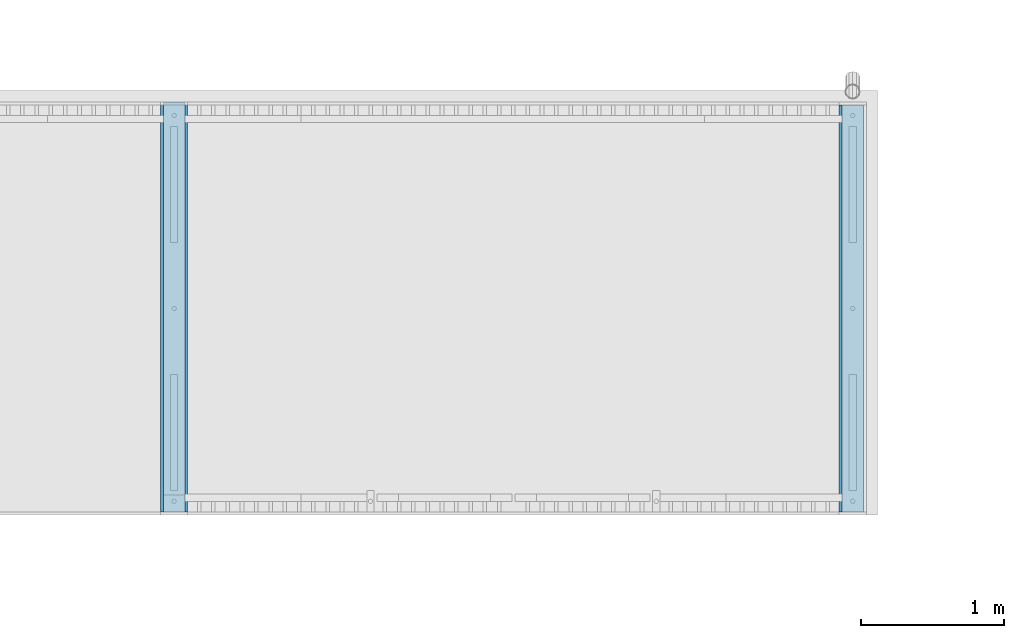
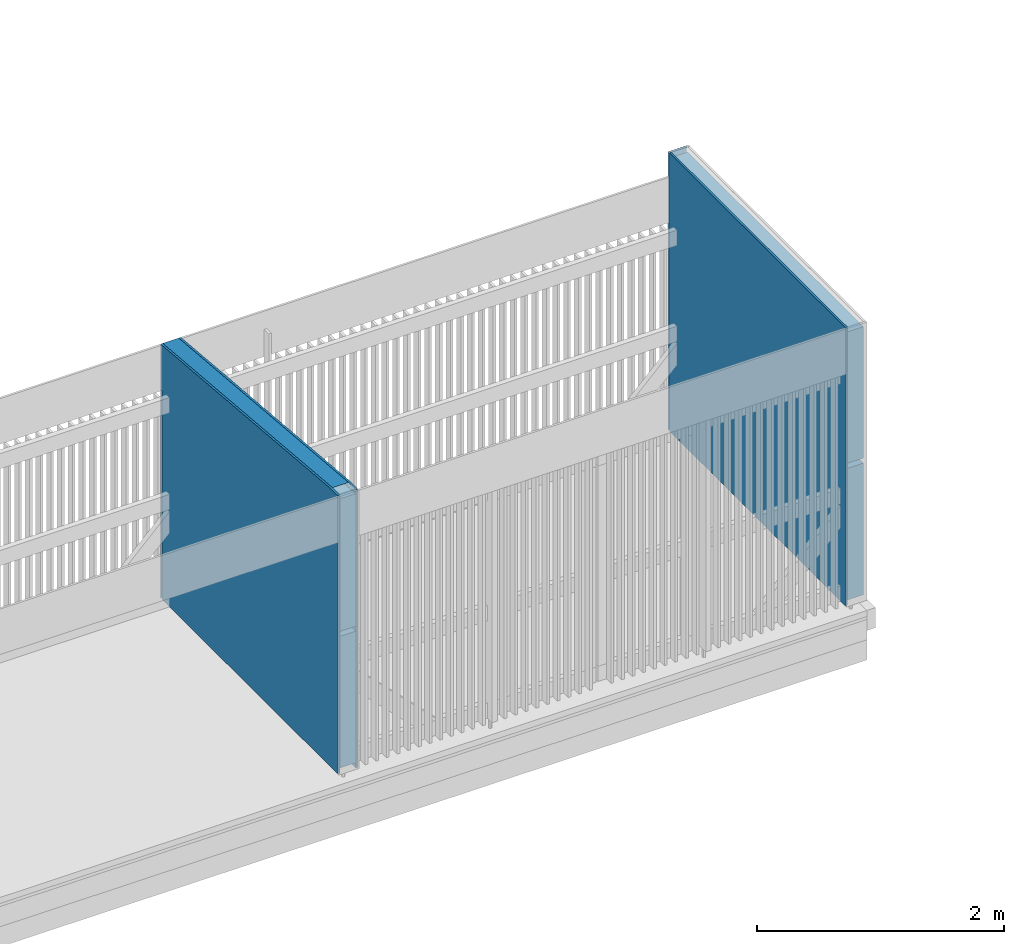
# One storey, part 125 of 418: 5 building element parts, 2 elements without a shape of their own.
"""IFC2X3 building model written with IfcOpenShell, lengths in millimetres."""

from ifc_helpers import new_model, entity, si_unit, converted_unit, derived_unit, money_unit, direction, frame, origin_with_axes, place, context, subcontext, project, spatial, polyline, outline, extrude, boolean, faceted_brep, material, type_object, element, aggregate, save


model = new_model("IFC2X3")

# Units and contexts
model_context = context("Model", 3, precision=0.01, world=origin_with_axes(), true_north=direction((0.0, 1.0)))
body_context = subcontext(model_context, "Body", "Model", "MODEL_VIEW")
ifc_project = project(units=[si_unit("LENGTHUNIT", "METRE", prefix="MILLI"), si_unit("AREAUNIT", "SQUARE_METRE"), si_unit("VOLUMEUNIT", "CUBIC_METRE"), converted_unit("PLANEANGLEUNIT", "DEGREE", entity("IfcPlaneAngleMeasure", 0.0174532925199), si_unit("PLANEANGLEUNIT", "RADIAN"), dimensions=[0, 0, 0, 0, 0, 0, 0]), si_unit("SOLIDANGLEUNIT", "STERADIAN"), money_unit("EUR"), converted_unit("TIMEUNIT", "Year", entity("IfcTimeMeasure", 31556926.0), si_unit("TIMEUNIT", "SECOND"), dimensions=[0, 0, 1, 0, 0, 0, 0]), si_unit("MASSUNIT", "GRAM", prefix="KILO"), si_unit("THERMODYNAMICTEMPERATUREUNIT", "DEGREE_CELSIUS"), si_unit("LUMINOUSINTENSITYUNIT", "LUMEN"), si_unit("ENERGYUNIT", "JOULE", prefix="MEGA"), derived_unit("THERMALCONDUCTANCEUNIT", [(si_unit("POWERUNIT", "WATT"), 1), (si_unit("LENGTHUNIT", "METRE"), -1), (si_unit("THERMODYNAMICTEMPERATUREUNIT", "KELVIN"), -1)]), derived_unit("SPECIFICHEATCAPACITYUNIT", [(si_unit("ENERGYUNIT", "JOULE"), 1), (si_unit("MASSUNIT", "GRAM", prefix="KILO"), -1), (si_unit("THERMODYNAMICTEMPERATUREUNIT", "KELVIN"), -1)]), derived_unit("MASSDENSITYUNIT", [(si_unit("MASSUNIT", "GRAM", prefix="KILO"), 1), (si_unit("VOLUMEUNIT", "CUBIC_METRE"), -1)])], contexts=[model_context])

# Site, building, storey
site_placement = place(None, origin_with_axes())
site = spatial("IfcSite", under=ifc_project, at=site_placement, Name="Paldiski mnt 245/1, Tallinn, Harjumaa", CompositionType="COMPLEX")
building_placement = place(site_placement, origin_with_axes())
building = spatial("IfcBuilding", under=site, at=building_placement, Name="RKAS Hoone üldnimetus (kasutust iseloomustav) -> IFC Project Manager -> SOLIBRI", CompositionType="ELEMENT")
storey_placement = place(building_placement, origin_with_axes())
storey = spatial("IfcBuildingStorey", under=building, at=storey_placement, Name="Esimene korrus", CompositionType="ELEMENT", Elevation=0.0)

# Proxy, building element parts
building_element_proxy_type = type_object("IfcBuildingElementProxyType", Name="Pürgimaja_varjualuse_välissein 190", PredefinedType="NOTDEFINED")
proxy_1_placement = place(storey_placement, frame((-11974.2718012, 11149.7949563, -960.0), z_axis=(0.0, 0.0, 1.0), x_axis=(0.0, 1.0, 0.0)))
proxy_1 = element("IfcBuildingElementProxy", 1, at=proxy_1_placement, inside=storey, type_object=building_element_proxy_type, Name="Välissein_1")
ifc_material_1 = material(Name="Voodrilaud UYS 21x120mm")
building_element_part_1_placement = place(proxy_1_placement, origin_with_axes())
solid_1 = boolean("DIFFERENCE", boolean("DIFFERENCE", boolean("DIFFERENCE", boolean("DIFFERENCE", boolean("DIFFERENCE", boolean("DIFFERENCE", boolean("DIFFERENCE", boolean("DIFFERENCE", extrude(outline(polyline([(0.0, -95.0), (2890.00000143, -95.0), (2890.00000143, -75.0), (0.0, -75.0), (0.0, -95.0)])), origin_with_axes(), (0.0, 0.0, 1.0), 2752.59465133), faceted_brep([(20.0000171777, -95.0, 0.0), (20.0000171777, -95.0, 2752.59465133), (0.0, -95.0, 2752.59465133), (0.0, -95.0, 0.0), (20.0000171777, -75.0, 2752.59465133), (20.0000171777, -75.0, 0.0), (0.0, -75.0, 2752.59465133), (0.0, -75.0, 0.0)], [[[0, 1, 2, 3]], [[4, 1, 0, 5]], [[1, 4, 6, 2]], [[6, 7, 3, 2]], [[5, 0, 3, 7]], [[4, 5, 7, 6]]])), faceted_brep([(2869.00000143, -95.0, 2063.68114765), (2869.00000143, -95.0, 0.0), (2889.00000143, -95.0, 0.0), (2889.00000143, -95.0, 2063.68114765), (2869.00000143, -74.9999999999, 2063.68114765), (2869.00000143, -74.9999999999, 0.0), (2889.00000143, -74.9999999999, 0.0), (2889.00000143, -74.9999999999, 2063.68114765)], [[[0, 1, 2, 3]], [[1, 0, 4, 5]], [[6, 2, 1, 5]], [[3, 2, 6, 7]], [[0, 3, 7, 4]], [[7, 6, 5, 4]]])), faceted_brep([(145.005673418, -95.0, 2752.59465133), (2890.00000143, -94.9999999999, 2512.43876619), (2890.00000143, -95.0, 2752.59465133), (2890.00000143, -74.9999999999, 2512.43876619), (145.005673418, -75.0, 2752.59465133), (2890.00000143, -75.0, 2752.59465133)], [[[0, 1, 2]], [[3, 1, 0, 4]], [[1, 3, 5, 2]], [[4, 0, 2, 5]], [[3, 4, 5]]])), faceted_brep([(2869.00000143, 75.0000000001, 2063.68114765), (2889.00000143, 75.0000000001, 2063.68114765), (2889.00000143, 75.0000000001, 0.0), (0.0, 75.0, 0.0), (0.0, 75.0, 2752.59465133), (138.206158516, 75.0000473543, 2752.59465133), (2869.00000143, 75.0000473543, 2513.68114765), (2869.00000143, 75.0000473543, 2463.49015578), (20.0000171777, 75.0000473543, 2712.74535678), (20.0000171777, 75.0000473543, 1402.59465133), (2869.00000143, 75.0000473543, 1402.59465133), (20.0000171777, 75.0000473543, 50.0), (2869.00000143, 75.0000473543, 50.0), (2869.00000143, 75.0000473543, 1352.59465133), (20.0000171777, 75.0000473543, 1352.59465133), (2869.00000143, -74.9999999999, 2063.68114765), (2889.00000143, -74.9999999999, 2063.68114765), (2889.00000143, -74.9999999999, 0.0), (0.0, -75.0, 0.0), (0.0, -75.0, 2752.59465133), (138.206158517, -74.9999526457, 2752.59465133), (2869.00000143, -74.9999526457, 2513.68114765), (2869.00000143, -74.9999526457, 2463.49015578), (20.0000171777, -74.9999526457, 2712.74535678), (20.0000171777, -74.9999526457, 1402.59465133), (2869.00000143, -74.9999526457, 1402.59465133), (20.0000171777, -74.9999526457, 50.0), (2869.00000143, -74.9999526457, 50.0), (2869.00000143, -74.9999526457, 1352.59465133), (20.0000171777, -74.9999526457, 1352.59465133)], [[[0, 1, 2, 3, 4, 5, 6, 7, 8, 9, 10], [11, 12, 13, 14]], [[0, 15, 16, 1]], [[1, 16, 17, 2]], [[3, 2, 17, 18]], [[19, 4, 3, 18]], [[19, 20, 5, 4]], [[5, 20, 21, 6]], [[6, 21, 22, 7]], [[7, 22, 23, 8]], [[8, 23, 24, 9]], [[9, 24, 25, 10]], [[10, 25, 15, 0]], [[26, 27, 12, 11]], [[27, 28, 13, 12]], [[28, 29, 14, 13]], [[29, 26, 11, 14]], [[22, 21, 20, 19, 18, 17, 16, 15, 25, 24, 23], [26, 29, 28, 27]]])), faceted_brep([(145.005673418, -74.9999527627, 2752.59465133), (2890.00000143, -74.9999999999, 2512.43876619), (2890.00000143, -75.0, 2752.59465133), (2890.00000143, 75.0000000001, 2512.43876619), (145.005673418, 75.0000472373, 2752.59465133), (2890.00000143, 75.0, 2752.59465133)], [[[0, 1, 2]], [[3, 1, 0, 4]], [[1, 3, 5, 2]], [[4, 0, 2, 5]], [[3, 4, 5]]])), faceted_brep([(170.000001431, -24.9999484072, 750.934656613), (170.000001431, 25.0000515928, 750.934656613), (770.934658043, 25.0000515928, 150.0), (770.934658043, -24.9999484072, 150.0), (170.000001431, -24.9999484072, 963.066690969), (170.000001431, 25.0000515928, 963.066690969), (983.066692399, 25.0000515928, 150.0), (983.066692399, -24.9999484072, 150.0)], [[[0, 1, 2, 3]], [[0, 4, 5, 1]], [[1, 5, 6, 2]], [[3, 2, 6, 7]], [[4, 0, 3, 7]], [[5, 4, 7, 6]]])), faceted_brep([(2720.00000143, -24.9999484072, 963.066690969), (2720.00000143, 25.0000515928, 963.066690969), (1906.93331046, 25.0000515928, 150.0), (1906.93331046, -24.9999484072, 150.0), (2720.00000143, -24.9999484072, 750.934656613), (2720.00000143, 25.0000515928, 750.934656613), (2119.06534482, 25.0000515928, 150.0), (2119.06534482, -24.9999484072, 150.0)], [[[0, 1, 2, 3]], [[0, 4, 5, 1]], [[1, 5, 6, 2]], [[3, 2, 6, 7]], [[4, 0, 3, 7]], [[5, 4, 7, 6]]])), faceted_brep([(20.0000171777, 75.0, 0.0), (20.0000171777, 75.0, 2752.59465133), (0.0, 75.0, 2752.59465133), (0.0, 75.0, 0.0), (20.0000171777, 95.0, 2752.59465133), (20.0000171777, 95.0, 0.0), (0.0, 95.0, 2752.59465133), (0.0, 95.0, 0.0)], [[[0, 1, 2, 3]], [[4, 1, 0, 5]], [[1, 4, 6, 2]], [[6, 7, 3, 2]], [[5, 0, 3, 7]], [[4, 5, 7, 6]]]))
building_element_part_1 = element("IfcBuildingElementPart", 2, at=building_element_part_1_placement, material=ifc_material_1, Name="Voodrilaud UYS 21x120mm", context=body_context, shape_type="CSG", body=[
    boolean("DIFFERENCE", boolean("DIFFERENCE", solid_1, faceted_brep([(2869.00000143, 75.0000000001, 2063.68114765), (2869.00000143, 75.0000000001, 0.0), (2889.00000143, 75.0000000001, 0.0), (2889.00000143, 75.0000000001, 2063.68114765), (2869.00000143, 94.9999915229, 2063.68114765), (2869.00000143, 94.9999915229, 0.0), (2889.00000143, 94.9999915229, 0.0), (2889.00000143, 94.9999915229, 2063.68114765)], [[[0, 1, 2, 3]], [[1, 0, 4, 5]], [[6, 2, 1, 5]], [[3, 2, 6, 7]], [[0, 3, 7, 4]], [[7, 6, 5, 4]]])), faceted_brep([(145.005673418, 75.0, 2752.59465133), (2890.00000143, 75.0000000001, 2512.43876619), (2890.00000143, 75.0, 2752.59465133), (2890.00000143, 95.0000000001, 2512.43876619), (145.005673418, 95.0, 2752.59465133), (2890.00000143, 95.0, 2752.59465133)], [[[0, 1, 2]], [[3, 1, 0, 4]], [[1, 3, 5, 2]], [[4, 0, 2, 5]], [[3, 4, 5]]])),
])
ifc_material_2 = material(Name="Puitkarkass 150x150 ja 50x150 mm/õhuvahe")
building_element_part_2_placement = place(proxy_1_placement, origin_with_axes())
solid_2 = boolean("DIFFERENCE", boolean("DIFFERENCE", boolean("DIFFERENCE", boolean("DIFFERENCE", boolean("DIFFERENCE", boolean("DIFFERENCE", boolean("DIFFERENCE", boolean("DIFFERENCE", extrude(outline(polyline([(0.0, -75.0), (2890.00000143, -75.0), (2890.00000143, 75.0), (0.0, 75.0), (0.0, -75.0)])), origin_with_axes(), (0.0, 0.0, 1.0), 2752.59465133), faceted_brep([(20.0000171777, -95.0, 0.0), (20.0000171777, -95.0, 2752.59465133), (0.0, -95.0, 2752.59465133), (0.0, -95.0, 0.0), (20.0000171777, -75.0, 2752.59465133), (20.0000171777, -75.0, 0.0), (0.0, -75.0, 2752.59465133), (0.0, -75.0, 0.0)], [[[0, 1, 2, 3]], [[4, 1, 0, 5]], [[1, 4, 6, 2]], [[6, 7, 3, 2]], [[5, 0, 3, 7]], [[4, 5, 7, 6]]])), faceted_brep([(2869.00000143, -95.0, 2063.68114765), (2869.00000143, -95.0, 0.0), (2889.00000143, -95.0, 0.0), (2889.00000143, -95.0, 2063.68114765), (2869.00000143, -74.9999999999, 2063.68114765), (2869.00000143, -74.9999999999, 0.0), (2889.00000143, -74.9999999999, 0.0), (2889.00000143, -74.9999999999, 2063.68114765)], [[[0, 1, 2, 3]], [[1, 0, 4, 5]], [[6, 2, 1, 5]], [[3, 2, 6, 7]], [[0, 3, 7, 4]], [[7, 6, 5, 4]]])), faceted_brep([(145.005673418, -95.0, 2752.59465133), (2890.00000143, -94.9999999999, 2512.43876619), (2890.00000143, -95.0, 2752.59465133), (2890.00000143, -74.9999999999, 2512.43876619), (145.005673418, -75.0, 2752.59465133), (2890.00000143, -75.0, 2752.59465133)], [[[0, 1, 2]], [[3, 1, 0, 4]], [[1, 3, 5, 2]], [[4, 0, 2, 5]], [[3, 4, 5]]])), faceted_brep([(2869.00000143, 75.0000000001, 2063.68114765), (2889.00000143, 75.0000000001, 2063.68114765), (2889.00000143, 75.0000000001, 0.0), (0.0, 75.0, 0.0), (0.0, 75.0, 2752.59465133), (138.206158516, 75.0000473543, 2752.59465133), (2869.00000143, 75.0000473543, 2513.68114765), (2869.00000143, 75.0000473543, 2463.49015578), (20.0000171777, 75.0000473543, 2712.74535678), (20.0000171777, 75.0000473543, 1402.59465133), (2869.00000143, 75.0000473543, 1402.59465133), (20.0000171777, 75.0000473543, 50.0), (2869.00000143, 75.0000473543, 50.0), (2869.00000143, 75.0000473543, 1352.59465133), (20.0000171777, 75.0000473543, 1352.59465133), (2869.00000143, -74.9999999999, 2063.68114765), (2889.00000143, -74.9999999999, 2063.68114765), (2889.00000143, -74.9999999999, 0.0), (0.0, -75.0, 0.0), (0.0, -75.0, 2752.59465133), (138.206158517, -74.9999526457, 2752.59465133), (2869.00000143, -74.9999526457, 2513.68114765), (2869.00000143, -74.9999526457, 2463.49015578), (20.0000171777, -74.9999526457, 2712.74535678), (20.0000171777, -74.9999526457, 1402.59465133), (2869.00000143, -74.9999526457, 1402.59465133), (20.0000171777, -74.9999526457, 50.0), (2869.00000143, -74.9999526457, 50.0), (2869.00000143, -74.9999526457, 1352.59465133), (20.0000171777, -74.9999526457, 1352.59465133)], [[[0, 1, 2, 3, 4, 5, 6, 7, 8, 9, 10], [11, 12, 13, 14]], [[0, 15, 16, 1]], [[1, 16, 17, 2]], [[3, 2, 17, 18]], [[19, 4, 3, 18]], [[19, 20, 5, 4]], [[5, 20, 21, 6]], [[6, 21, 22, 7]], [[7, 22, 23, 8]], [[8, 23, 24, 9]], [[9, 24, 25, 10]], [[10, 25, 15, 0]], [[26, 27, 12, 11]], [[27, 28, 13, 12]], [[28, 29, 14, 13]], [[29, 26, 11, 14]], [[22, 21, 20, 19, 18, 17, 16, 15, 25, 24, 23], [26, 29, 28, 27]]])), faceted_brep([(145.005673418, -74.9999527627, 2752.59465133), (2890.00000143, -74.9999999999, 2512.43876619), (2890.00000143, -75.0, 2752.59465133), (2890.00000143, 75.0000000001, 2512.43876619), (145.005673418, 75.0000472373, 2752.59465133), (2890.00000143, 75.0, 2752.59465133)], [[[0, 1, 2]], [[3, 1, 0, 4]], [[1, 3, 5, 2]], [[4, 0, 2, 5]], [[3, 4, 5]]])), faceted_brep([(170.000001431, -24.9999484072, 750.934656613), (170.000001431, 25.0000515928, 750.934656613), (770.934658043, 25.0000515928, 150.0), (770.934658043, -24.9999484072, 150.0), (170.000001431, -24.9999484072, 963.066690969), (170.000001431, 25.0000515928, 963.066690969), (983.066692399, 25.0000515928, 150.0), (983.066692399, -24.9999484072, 150.0)], [[[0, 1, 2, 3]], [[0, 4, 5, 1]], [[1, 5, 6, 2]], [[3, 2, 6, 7]], [[4, 0, 3, 7]], [[5, 4, 7, 6]]])), faceted_brep([(2720.00000143, -24.9999484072, 963.066690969), (2720.00000143, 25.0000515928, 963.066690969), (1906.93331046, 25.0000515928, 150.0), (1906.93331046, -24.9999484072, 150.0), (2720.00000143, -24.9999484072, 750.934656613), (2720.00000143, 25.0000515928, 750.934656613), (2119.06534482, 25.0000515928, 150.0), (2119.06534482, -24.9999484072, 150.0)], [[[0, 1, 2, 3]], [[0, 4, 5, 1]], [[1, 5, 6, 2]], [[3, 2, 6, 7]], [[4, 0, 3, 7]], [[5, 4, 7, 6]]])), faceted_brep([(20.0000171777, 75.0, 0.0), (20.0000171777, 75.0, 2752.59465133), (0.0, 75.0, 2752.59465133), (0.0, 75.0, 0.0), (20.0000171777, 95.0, 2752.59465133), (20.0000171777, 95.0, 0.0), (0.0, 95.0, 2752.59465133), (0.0, 95.0, 0.0)], [[[0, 1, 2, 3]], [[4, 1, 0, 5]], [[1, 4, 6, 2]], [[6, 7, 3, 2]], [[5, 0, 3, 7]], [[4, 5, 7, 6]]]))
building_element_part_2 = element("IfcBuildingElementPart", 3, at=building_element_part_2_placement, material=ifc_material_2, Name="Puitkarkass 150x150 ja 50x150 mm/õhuvahe", context=body_context, shape_type="CSG", body=[
    boolean("DIFFERENCE", boolean("DIFFERENCE", solid_2, faceted_brep([(2869.00000143, 75.0000000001, 2063.68114765), (2869.00000143, 75.0000000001, 0.0), (2889.00000143, 75.0000000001, 0.0), (2889.00000143, 75.0000000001, 2063.68114765), (2869.00000143, 94.9999915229, 2063.68114765), (2869.00000143, 94.9999915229, 0.0), (2889.00000143, 94.9999915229, 0.0), (2889.00000143, 94.9999915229, 2063.68114765)], [[[0, 1, 2, 3]], [[1, 0, 4, 5]], [[6, 2, 1, 5]], [[3, 2, 6, 7]], [[0, 3, 7, 4]], [[7, 6, 5, 4]]])), faceted_brep([(145.005673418, 75.0, 2752.59465133), (2890.00000143, 75.0000000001, 2512.43876619), (2890.00000143, 75.0, 2752.59465133), (2890.00000143, 95.0000000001, 2512.43876619), (145.005673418, 95.0, 2752.59465133), (2890.00000143, 95.0, 2752.59465133)], [[[0, 1, 2]], [[3, 1, 0, 4]], [[1, 3, 5, 2]], [[4, 0, 2, 5]], [[3, 4, 5]]])),
])
building_element_part_3_placement = place(proxy_1_placement, origin_with_axes())
solid_3 = boolean("DIFFERENCE", boolean("DIFFERENCE", boolean("DIFFERENCE", boolean("DIFFERENCE", boolean("DIFFERENCE", boolean("DIFFERENCE", boolean("DIFFERENCE", boolean("DIFFERENCE", extrude(outline(polyline([(0.0, 75.0), (2890.00000143, 75.0), (2890.00000143, 95.0), (0.0, 95.0), (0.0, 75.0)])), origin_with_axes(), (0.0, 0.0, 1.0), 2752.59465133), faceted_brep([(20.0000171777, -95.0, 0.0), (20.0000171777, -95.0, 2752.59465133), (0.0, -95.0, 2752.59465133), (0.0, -95.0, 0.0), (20.0000171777, -75.0, 2752.59465133), (20.0000171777, -75.0, 0.0), (0.0, -75.0, 2752.59465133), (0.0, -75.0, 0.0)], [[[0, 1, 2, 3]], [[4, 1, 0, 5]], [[1, 4, 6, 2]], [[6, 7, 3, 2]], [[5, 0, 3, 7]], [[4, 5, 7, 6]]])), faceted_brep([(2869.00000143, -95.0, 2063.68114765), (2869.00000143, -95.0, 0.0), (2889.00000143, -95.0, 0.0), (2889.00000143, -95.0, 2063.68114765), (2869.00000143, -74.9999999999, 2063.68114765), (2869.00000143, -74.9999999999, 0.0), (2889.00000143, -74.9999999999, 0.0), (2889.00000143, -74.9999999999, 2063.68114765)], [[[0, 1, 2, 3]], [[1, 0, 4, 5]], [[6, 2, 1, 5]], [[3, 2, 6, 7]], [[0, 3, 7, 4]], [[7, 6, 5, 4]]])), faceted_brep([(145.005673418, -95.0, 2752.59465133), (2890.00000143, -94.9999999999, 2512.43876619), (2890.00000143, -95.0, 2752.59465133), (2890.00000143, -74.9999999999, 2512.43876619), (145.005673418, -75.0, 2752.59465133), (2890.00000143, -75.0, 2752.59465133)], [[[0, 1, 2]], [[3, 1, 0, 4]], [[1, 3, 5, 2]], [[4, 0, 2, 5]], [[3, 4, 5]]])), faceted_brep([(2869.00000143, 75.0000000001, 2063.68114765), (2889.00000143, 75.0000000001, 2063.68114765), (2889.00000143, 75.0000000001, 0.0), (0.0, 75.0, 0.0), (0.0, 75.0, 2752.59465133), (138.206158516, 75.0000473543, 2752.59465133), (2869.00000143, 75.0000473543, 2513.68114765), (2869.00000143, 75.0000473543, 2463.49015578), (20.0000171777, 75.0000473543, 2712.74535678), (20.0000171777, 75.0000473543, 1402.59465133), (2869.00000143, 75.0000473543, 1402.59465133), (20.0000171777, 75.0000473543, 50.0), (2869.00000143, 75.0000473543, 50.0), (2869.00000143, 75.0000473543, 1352.59465133), (20.0000171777, 75.0000473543, 1352.59465133), (2869.00000143, -74.9999999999, 2063.68114765), (2889.00000143, -74.9999999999, 2063.68114765), (2889.00000143, -74.9999999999, 0.0), (0.0, -75.0, 0.0), (0.0, -75.0, 2752.59465133), (138.206158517, -74.9999526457, 2752.59465133), (2869.00000143, -74.9999526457, 2513.68114765), (2869.00000143, -74.9999526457, 2463.49015578), (20.0000171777, -74.9999526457, 2712.74535678), (20.0000171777, -74.9999526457, 1402.59465133), (2869.00000143, -74.9999526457, 1402.59465133), (20.0000171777, -74.9999526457, 50.0), (2869.00000143, -74.9999526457, 50.0), (2869.00000143, -74.9999526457, 1352.59465133), (20.0000171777, -74.9999526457, 1352.59465133)], [[[0, 1, 2, 3, 4, 5, 6, 7, 8, 9, 10], [11, 12, 13, 14]], [[0, 15, 16, 1]], [[1, 16, 17, 2]], [[3, 2, 17, 18]], [[19, 4, 3, 18]], [[19, 20, 5, 4]], [[5, 20, 21, 6]], [[6, 21, 22, 7]], [[7, 22, 23, 8]], [[8, 23, 24, 9]], [[9, 24, 25, 10]], [[10, 25, 15, 0]], [[26, 27, 12, 11]], [[27, 28, 13, 12]], [[28, 29, 14, 13]], [[29, 26, 11, 14]], [[22, 21, 20, 19, 18, 17, 16, 15, 25, 24, 23], [26, 29, 28, 27]]])), faceted_brep([(145.005673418, -74.9999527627, 2752.59465133), (2890.00000143, -74.9999999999, 2512.43876619), (2890.00000143, -75.0, 2752.59465133), (2890.00000143, 75.0000000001, 2512.43876619), (145.005673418, 75.0000472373, 2752.59465133), (2890.00000143, 75.0, 2752.59465133)], [[[0, 1, 2]], [[3, 1, 0, 4]], [[1, 3, 5, 2]], [[4, 0, 2, 5]], [[3, 4, 5]]])), faceted_brep([(170.000001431, -24.9999484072, 750.934656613), (170.000001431, 25.0000515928, 750.934656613), (770.934658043, 25.0000515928, 150.0), (770.934658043, -24.9999484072, 150.0), (170.000001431, -24.9999484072, 963.066690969), (170.000001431, 25.0000515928, 963.066690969), (983.066692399, 25.0000515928, 150.0), (983.066692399, -24.9999484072, 150.0)], [[[0, 1, 2, 3]], [[0, 4, 5, 1]], [[1, 5, 6, 2]], [[3, 2, 6, 7]], [[4, 0, 3, 7]], [[5, 4, 7, 6]]])), faceted_brep([(2720.00000143, -24.9999484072, 963.066690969), (2720.00000143, 25.0000515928, 963.066690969), (1906.93331046, 25.0000515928, 150.0), (1906.93331046, -24.9999484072, 150.0), (2720.00000143, -24.9999484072, 750.934656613), (2720.00000143, 25.0000515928, 750.934656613), (2119.06534482, 25.0000515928, 150.0), (2119.06534482, -24.9999484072, 150.0)], [[[0, 1, 2, 3]], [[0, 4, 5, 1]], [[1, 5, 6, 2]], [[3, 2, 6, 7]], [[4, 0, 3, 7]], [[5, 4, 7, 6]]])), faceted_brep([(20.0000171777, 75.0, 0.0), (20.0000171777, 75.0, 2752.59465133), (0.0, 75.0, 2752.59465133), (0.0, 75.0, 0.0), (20.0000171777, 95.0, 2752.59465133), (20.0000171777, 95.0, 0.0), (0.0, 95.0, 2752.59465133), (0.0, 95.0, 0.0)], [[[0, 1, 2, 3]], [[4, 1, 0, 5]], [[1, 4, 6, 2]], [[6, 7, 3, 2]], [[5, 0, 3, 7]], [[4, 5, 7, 6]]]))
building_element_part_3 = element("IfcBuildingElementPart", 4, at=building_element_part_3_placement, material=ifc_material_1, Name="Voodrilaud UYS 21x120mm", context=body_context, shape_type="CSG", body=[
    boolean("DIFFERENCE", boolean("DIFFERENCE", solid_3, faceted_brep([(2869.00000143, 75.0000000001, 2063.68114765), (2869.00000143, 75.0000000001, 0.0), (2889.00000143, 75.0000000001, 0.0), (2889.00000143, 75.0000000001, 2063.68114765), (2869.00000143, 94.9999915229, 2063.68114765), (2869.00000143, 94.9999915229, 0.0), (2889.00000143, 94.9999915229, 0.0), (2889.00000143, 94.9999915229, 2063.68114765)], [[[0, 1, 2, 3]], [[1, 0, 4, 5]], [[6, 2, 1, 5]], [[3, 2, 6, 7]], [[0, 3, 7, 4]], [[7, 6, 5, 4]]])), faceted_brep([(145.005673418, 75.0, 2752.59465133), (2890.00000143, 75.0000000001, 2512.43876619), (2890.00000143, 75.0, 2752.59465133), (2890.00000143, 95.0000000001, 2512.43876619), (145.005673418, 95.0, 2752.59465133), (2890.00000143, 95.0, 2752.59465133)], [[[0, 1, 2]], [[3, 1, 0, 4]], [[1, 3, 5, 2]], [[4, 0, 2, 5]], [[3, 4, 5]]])),
])
aggregate(proxy_1, [building_element_part_1, building_element_part_2, building_element_part_3])

proxy_2_placement = place(storey_placement, frame((-7224.27180125, 14039.7949578, -960.0), z_axis=(0.0, 0.0, 1.0), x_axis=(0.0, -1.0, 0.0)))
proxy_2 = element("IfcBuildingElementProxy", 5, at=proxy_2_placement, inside=storey, type_object=building_element_proxy_type, Name="Välissein_1")
building_element_part_4_placement = place(proxy_2_placement, origin_with_axes())
building_element_part_4 = element("IfcBuildingElementPart", 6, at=building_element_part_4_placement, material=ifc_material_1, Name="Voodrilaud UYS 21x120mm", context=body_context, shape_type="CSG", body=[
    boolean("DIFFERENCE", boolean("DIFFERENCE", boolean("DIFFERENCE", boolean("DIFFERENCE", boolean("DIFFERENCE", extrude(outline(polyline([(0.0, -95.0), (2890.00000143, -95.0), (2890.00000143, -75.0), (0.0, -75.0), (0.0, -95.0)])), origin_with_axes(), (0.0, 0.0, 1.0), 2758.66825202), faceted_brep([(0.999999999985, -75.0, 0.0), (0.999999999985, -75.0, 2752.59465133), (0.0, -75.0, 2752.59465133), (0.0, -75.0, 2758.66825202), (2890.00000143, -75.0, 2758.66825202), (2890.00000143, -75.0, 0.0), (2869.99998425, -74.9999999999, 0.0), (2869.99998425, -74.9999999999, 2752.59465133), (21.0, -75.0, 2752.59465133), (21.0, -75.0, 0.0), (0.999999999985, -94.9999915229, 0.0), (0.999999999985, -94.9999915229, 2752.59465133), (0.0, -95.0, 2752.59465133), (0.0, -95.0, 2758.66825202), (2890.00000143, -95.0, 2758.66825202), (2890.00000143, -95.0, 0.0), (2869.99998425, -94.9999915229, 0.0), (2869.99998425, -94.9999915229, 2752.59465133), (21.0, -94.9999915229, 2752.59465133), (21.0, -94.9999915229, 0.0)], [[[0, 1, 2, 3, 4, 5, 6, 7, 8, 9]], [[1, 0, 10, 11]], [[12, 2, 1, 11]], [[2, 12, 13, 3]], [[3, 13, 14, 4]], [[14, 15, 5, 4]], [[16, 6, 5, 15]], [[7, 6, 16, 17]], [[8, 7, 17, 18]], [[9, 8, 18, 19]], [[10, 0, 9, 19]], [[11, 10, 19, 18, 17, 16, 15, 14, 13, 12]]])), faceted_brep([(0.0, -75.0, 2752.59465133), (0.999999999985, -75.0, 2752.59465133), (0.999999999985, -75.0, 0.0), (2890.00000143, -75.0, 0.0), (2890.00000143, -75.0, 2758.66825202), (0.0, -75.0, 2758.66825202), (2869.99998425, -75.0, 2702.59465133), (2869.99998425, -75.0, 1402.59465133), (21.0, -75.0, 1402.59465133), (21.0, -75.0, 2702.59465133), (2869.99998425, -74.9999957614, 50.0), (21.0, -74.9999957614, 50.0), (21.0, -75.0, 1352.59465133), (2869.99998425, -75.0, 1352.59465133), (0.0, 75.0, 2752.59465133), (0.999999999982, 75.0, 2752.59465133), (0.999999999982, 75.0, 0.0), (2890.00000143, 75.0, 0.0), (2890.00000143, 75.0, 2758.66825202), (0.0, 75.0, 2758.66825202), (2869.99998425, 75.0, 2702.59465133), (2869.99998425, 75.0, 1402.59465133), (21.0, 75.0, 1402.59465133), (21.0, 75.0, 2702.59465133), (2869.99998425, 75.0000042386, 50.0), (21.0, 75.0000042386, 50.0), (21.0, 75.0, 1352.59465133), (2869.99998425, 75.0, 1352.59465133)], [[[0, 1, 2, 3, 4, 5], [6, 7, 8, 9], [10, 11, 12, 13]], [[1, 0, 14, 15]], [[1, 15, 16, 2]], [[3, 2, 16, 17]], [[18, 4, 3, 17]], [[18, 19, 5, 4]], [[19, 14, 0, 5]], [[6, 20, 21, 7]], [[7, 21, 22, 8]], [[8, 22, 23, 9]], [[9, 23, 20, 6]], [[24, 25, 11, 10]], [[25, 26, 12, 11]], [[26, 27, 13, 12]], [[27, 24, 10, 13]], [[17, 16, 15, 14, 19, 18], [22, 21, 20, 23], [24, 27, 26, 25]]])), faceted_brep([(2720.0, 25.0, 750.934656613), (2720.0, -25.0, 750.934656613), (2119.06534339, -25.0, 150.0), (2119.06534339, 25.0, 150.0), (2720.0, 25.0, 963.066690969), (2720.0, -25.0, 963.066690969), (1906.93330903, -25.0, 150.0), (1906.93330903, 25.0, 150.0)], [[[0, 1, 2, 3]], [[0, 4, 5, 1]], [[1, 5, 6, 2]], [[3, 2, 6, 7]], [[4, 0, 3, 7]], [[5, 4, 7, 6]]])), faceted_brep([(170.0, 25.0, 963.066690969), (170.0, -25.0, 963.066690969), (983.066690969, -25.0, 150.0), (983.066690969, 25.0, 150.0), (170.0, 25.0, 750.934656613), (170.0, -25.0, 750.934656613), (770.934656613, -25.0, 150.0), (770.934656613, 25.0, 150.0)], [[[0, 1, 2, 3]], [[0, 4, 5, 1]], [[1, 5, 6, 2]], [[3, 2, 6, 7]], [[4, 0, 3, 7]], [[5, 4, 7, 6]]])), faceted_brep([(0.999999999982, 95.0, 0.0), (0.999999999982, 95.0, 2752.59465133), (0.0, 95.0, 2752.59465133), (0.0, 95.0, 2758.66825202), (2890.00000143, 95.0, 2758.66825202), (2890.00000143, 95.0, 0.0), (2869.99998425, 95.0, 0.0), (2869.99998425, 95.0, 2752.59465133), (21.0, 95.0, 2752.59465133), (21.0, 95.0, 0.0), (0.999999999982, 75.0, 0.0), (0.999999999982, 75.0, 2752.59465133), (0.0, 75.0, 2752.59465133), (0.0, 75.0, 2758.66825202), (2890.00000143, 75.0, 2758.66825202), (2890.00000143, 75.0, 0.0), (2869.99998425, 75.0000000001, 0.0), (2869.99998425, 75.0000000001, 2752.59465133), (21.0, 75.0, 2752.59465133), (21.0, 75.0, 0.0)], [[[0, 1, 2, 3, 4, 5, 6, 7, 8, 9]], [[1, 0, 10, 11]], [[12, 2, 1, 11]], [[2, 12, 13, 3]], [[3, 13, 14, 4]], [[14, 15, 5, 4]], [[16, 6, 5, 15]], [[7, 6, 16, 17]], [[8, 7, 17, 18]], [[9, 8, 18, 19]], [[10, 0, 9, 19]], [[11, 10, 19, 18, 17, 16, 15, 14, 13, 12]]])),
])
building_element_part_5_placement = place(proxy_2_placement, origin_with_axes())
building_element_part_5 = element("IfcBuildingElementPart", 7, at=building_element_part_5_placement, material=ifc_material_2, Name="Puitkarkass 150x150 ja 50x150 mm/õhuvahe", context=body_context, shape_type="CSG", body=[
    boolean("DIFFERENCE", boolean("DIFFERENCE", boolean("DIFFERENCE", boolean("DIFFERENCE", boolean("DIFFERENCE", extrude(outline(polyline([(0.0, -75.0), (2890.00000143, -75.0), (2890.00000143, 75.0), (0.0, 75.0), (0.0, -75.0)])), origin_with_axes(), (0.0, 0.0, 1.0), 2758.66825202), faceted_brep([(0.999999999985, -75.0, 0.0), (0.999999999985, -75.0, 2752.59465133), (0.0, -75.0, 2752.59465133), (0.0, -75.0, 2758.66825202), (2890.00000143, -75.0, 2758.66825202), (2890.00000143, -75.0, 0.0), (2869.99998425, -74.9999999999, 0.0), (2869.99998425, -74.9999999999, 2752.59465133), (21.0, -75.0, 2752.59465133), (21.0, -75.0, 0.0), (0.999999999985, -94.9999915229, 0.0), (0.999999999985, -94.9999915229, 2752.59465133), (0.0, -95.0, 2752.59465133), (0.0, -95.0, 2758.66825202), (2890.00000143, -95.0, 2758.66825202), (2890.00000143, -95.0, 0.0), (2869.99998425, -94.9999915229, 0.0), (2869.99998425, -94.9999915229, 2752.59465133), (21.0, -94.9999915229, 2752.59465133), (21.0, -94.9999915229, 0.0)], [[[0, 1, 2, 3, 4, 5, 6, 7, 8, 9]], [[1, 0, 10, 11]], [[12, 2, 1, 11]], [[2, 12, 13, 3]], [[3, 13, 14, 4]], [[14, 15, 5, 4]], [[16, 6, 5, 15]], [[7, 6, 16, 17]], [[8, 7, 17, 18]], [[9, 8, 18, 19]], [[10, 0, 9, 19]], [[11, 10, 19, 18, 17, 16, 15, 14, 13, 12]]])), faceted_brep([(0.0, -75.0, 2752.59465133), (0.999999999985, -75.0, 2752.59465133), (0.999999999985, -75.0, 0.0), (2890.00000143, -75.0, 0.0), (2890.00000143, -75.0, 2758.66825202), (0.0, -75.0, 2758.66825202), (2869.99998425, -75.0, 2702.59465133), (2869.99998425, -75.0, 1402.59465133), (21.0, -75.0, 1402.59465133), (21.0, -75.0, 2702.59465133), (2869.99998425, -74.9999957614, 50.0), (21.0, -74.9999957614, 50.0), (21.0, -75.0, 1352.59465133), (2869.99998425, -75.0, 1352.59465133), (0.0, 75.0, 2752.59465133), (0.999999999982, 75.0, 2752.59465133), (0.999999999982, 75.0, 0.0), (2890.00000143, 75.0, 0.0), (2890.00000143, 75.0, 2758.66825202), (0.0, 75.0, 2758.66825202), (2869.99998425, 75.0, 2702.59465133), (2869.99998425, 75.0, 1402.59465133), (21.0, 75.0, 1402.59465133), (21.0, 75.0, 2702.59465133), (2869.99998425, 75.0000042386, 50.0), (21.0, 75.0000042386, 50.0), (21.0, 75.0, 1352.59465133), (2869.99998425, 75.0, 1352.59465133)], [[[0, 1, 2, 3, 4, 5], [6, 7, 8, 9], [10, 11, 12, 13]], [[1, 0, 14, 15]], [[1, 15, 16, 2]], [[3, 2, 16, 17]], [[18, 4, 3, 17]], [[18, 19, 5, 4]], [[19, 14, 0, 5]], [[6, 20, 21, 7]], [[7, 21, 22, 8]], [[8, 22, 23, 9]], [[9, 23, 20, 6]], [[24, 25, 11, 10]], [[25, 26, 12, 11]], [[26, 27, 13, 12]], [[27, 24, 10, 13]], [[17, 16, 15, 14, 19, 18], [22, 21, 20, 23], [24, 27, 26, 25]]])), faceted_brep([(2720.0, 25.0, 750.934656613), (2720.0, -25.0, 750.934656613), (2119.06534339, -25.0, 150.0), (2119.06534339, 25.0, 150.0), (2720.0, 25.0, 963.066690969), (2720.0, -25.0, 963.066690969), (1906.93330903, -25.0, 150.0), (1906.93330903, 25.0, 150.0)], [[[0, 1, 2, 3]], [[0, 4, 5, 1]], [[1, 5, 6, 2]], [[3, 2, 6, 7]], [[4, 0, 3, 7]], [[5, 4, 7, 6]]])), faceted_brep([(170.0, 25.0, 963.066690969), (170.0, -25.0, 963.066690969), (983.066690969, -25.0, 150.0), (983.066690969, 25.0, 150.0), (170.0, 25.0, 750.934656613), (170.0, -25.0, 750.934656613), (770.934656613, -25.0, 150.0), (770.934656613, 25.0, 150.0)], [[[0, 1, 2, 3]], [[0, 4, 5, 1]], [[1, 5, 6, 2]], [[3, 2, 6, 7]], [[4, 0, 3, 7]], [[5, 4, 7, 6]]])), faceted_brep([(0.999999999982, 95.0, 0.0), (0.999999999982, 95.0, 2752.59465133), (0.0, 95.0, 2752.59465133), (0.0, 95.0, 2758.66825202), (2890.00000143, 95.0, 2758.66825202), (2890.00000143, 95.0, 0.0), (2869.99998425, 95.0, 0.0), (2869.99998425, 95.0, 2752.59465133), (21.0, 95.0, 2752.59465133), (21.0, 95.0, 0.0), (0.999999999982, 75.0, 0.0), (0.999999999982, 75.0, 2752.59465133), (0.0, 75.0, 2752.59465133), (0.0, 75.0, 2758.66825202), (2890.00000143, 75.0, 2758.66825202), (2890.00000143, 75.0, 0.0), (2869.99998425, 75.0000000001, 0.0), (2869.99998425, 75.0000000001, 2752.59465133), (21.0, 75.0, 2752.59465133), (21.0, 75.0, 0.0)], [[[0, 1, 2, 3, 4, 5, 6, 7, 8, 9]], [[1, 0, 10, 11]], [[12, 2, 1, 11]], [[2, 12, 13, 3]], [[3, 13, 14, 4]], [[14, 15, 5, 4]], [[16, 6, 5, 15]], [[7, 6, 16, 17]], [[8, 7, 17, 18]], [[9, 8, 18, 19]], [[10, 0, 9, 19]], [[11, 10, 19, 18, 17, 16, 15, 14, 13, 12]]])),
])
aggregate(proxy_2, [building_element_part_4, building_element_part_5])

save(model, "model.ifc")
